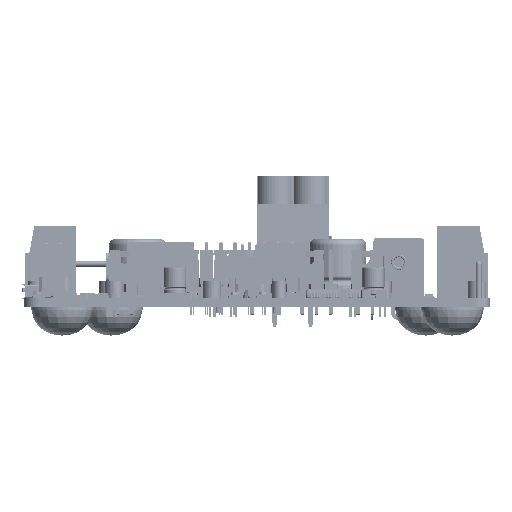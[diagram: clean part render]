
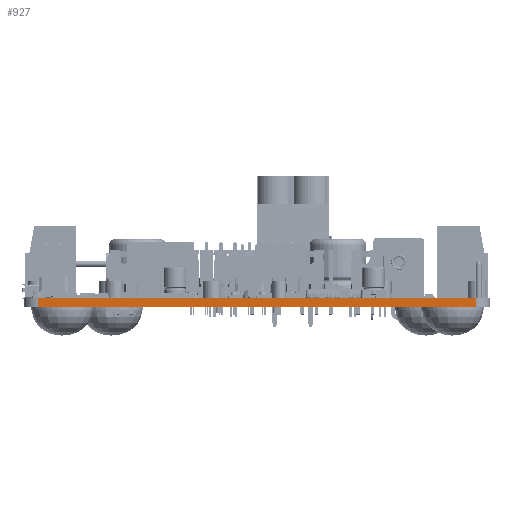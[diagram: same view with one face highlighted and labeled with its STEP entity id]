
A CAD part, left-side view. The second image highlights one B-rep face of the part: STEP entity #927.
In plain terms, the highlighted planar face has unit normal (-1, 0, 0).
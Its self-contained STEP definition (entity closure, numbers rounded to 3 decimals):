
#900 = VERTEX_POINT('',#901);
#901 = CARTESIAN_POINT('',(0.,2.54,1.575));
#908 = EDGE_CURVE('',#909,#900,#911,.T.);
#909 = VERTEX_POINT('',#910);
#910 = CARTESIAN_POINT('',(0.,2.54,0.));
#911 = LINE('',#912,#913);
#912 = CARTESIAN_POINT('',(0.,2.54,0.));
#913 = VECTOR('',#914,1.);
#914 = DIRECTION('',(0.,0.,1.));
#927 = ADVANCED_FACE('',(#928),#953,.T.);
#928 = FACE_BOUND('',#929,.T.);
#929 = EDGE_LOOP('',(#930,#931,#939,#947));
#930 = ORIENTED_EDGE('',*,*,#908,.T.);
#931 = ORIENTED_EDGE('',*,*,#932,.T.);
#932 = EDGE_CURVE('',#900,#933,#935,.T.);
#933 = VERTEX_POINT('',#934);
#934 = CARTESIAN_POINT('',(0.,80.01,1.575));
#935 = LINE('',#936,#937);
#936 = CARTESIAN_POINT('',(0.,2.54,1.575));
#937 = VECTOR('',#938,1.);
#938 = DIRECTION('',(0.,1.,0.));
#939 = ORIENTED_EDGE('',*,*,#940,.F.);
#940 = EDGE_CURVE('',#941,#933,#943,.T.);
#941 = VERTEX_POINT('',#942);
#942 = CARTESIAN_POINT('',(0.,80.01,0.));
#943 = LINE('',#944,#945);
#944 = CARTESIAN_POINT('',(0.,80.01,0.));
#945 = VECTOR('',#946,1.);
#946 = DIRECTION('',(0.,0.,1.));
#947 = ORIENTED_EDGE('',*,*,#948,.F.);
#948 = EDGE_CURVE('',#909,#941,#949,.T.);
#949 = LINE('',#950,#951);
#950 = CARTESIAN_POINT('',(0.,2.54,0.));
#951 = VECTOR('',#952,1.);
#952 = DIRECTION('',(0.,1.,0.));
#953 = PLANE('',#954);
#954 = AXIS2_PLACEMENT_3D('',#955,#956,#957);
#955 = CARTESIAN_POINT('',(0.,2.54,0.));
#956 = DIRECTION('',(-1.,0.,0.));
#957 = DIRECTION('',(0.,1.,0.));
